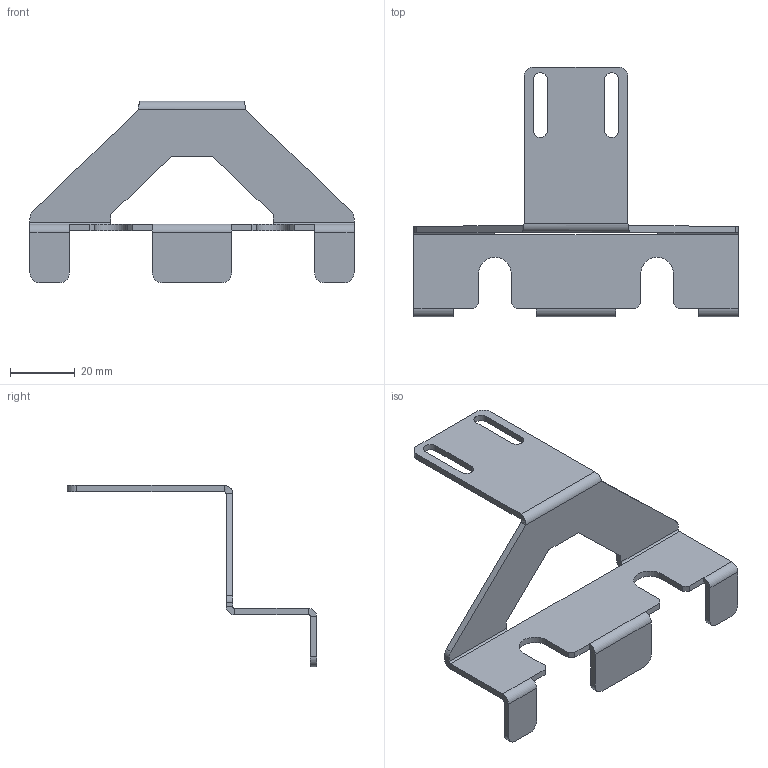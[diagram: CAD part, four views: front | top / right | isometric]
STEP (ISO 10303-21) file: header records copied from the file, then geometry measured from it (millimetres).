
FILE_DESCRIPTION (( 'STEP AP214' ), '1' );
FILE_NAME ('RB.3534.00.00.0.STEP', '2025-09-03T07:18:17', ( '' ), ( '' ), 'SwSTEP 2.0', 'SolidWorks 2022', '' );
FILE_SCHEMA (( 'AUTOMOTIVE_DESIGN' ));
Length unit declared in the file: millimetre
Products named in the file (1): RB.3534.00.00.0
Bounding box: 100 x 77 x 55.95 mm (x, y, z)
Volume: 12263.8 mm3; surface area: 13789.1 mm2
Topology: 1 solids, 1 shells, 684 faces, 1871 edges, 1232 vertices
Faces by surface type: plane 383, bspline 273, cylinder 28
Entity records: 30743 total; most frequent: CARTESIAN_POINT 15217, ORIENTED_EDGE 3742, DIRECTION 2201, EDGE_CURVE 1871, VECTOR 1273, LINE 1273, VERTEX_POINT 1232, EDGE_LOOP 733
